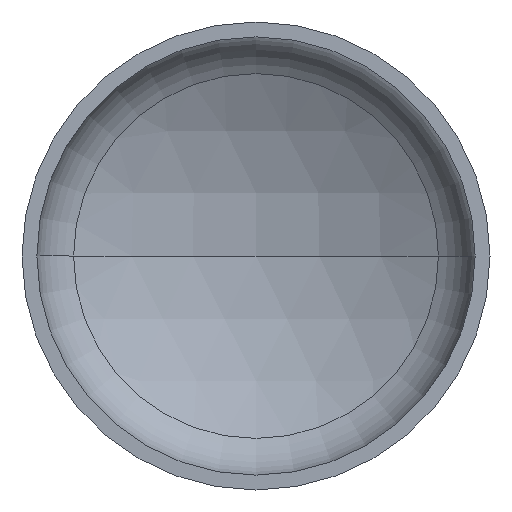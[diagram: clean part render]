
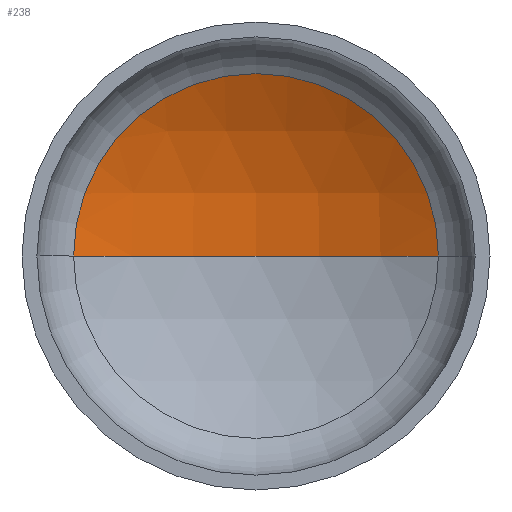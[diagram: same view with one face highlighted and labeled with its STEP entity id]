
A CAD part, front view. The second image highlights one B-rep face of the part: STEP entity #238.
In plain terms, the highlighted spherical face has radius 1360 mm.
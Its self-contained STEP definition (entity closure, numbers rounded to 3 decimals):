
#32 = AXIS2_PLACEMENT_3D ( 'NONE', #247, #222, #339 ) ;
#43 = AXIS2_PLACEMENT_3D ( 'NONE', #393, #251, #411 ) ;
#44 = AXIS2_PLACEMENT_3D ( 'NONE', #284, #283, #269 ) ;
#45 = AXIS2_PLACEMENT_3D ( 'NONE', #398, #403, #273 ) ;
#79 = VERTEX_POINT ( 'NONE', #135 ) ;
#87 = EDGE_LOOP ( 'NONE', ( #163, #119, #111 ) ) ;
#90 = VERTEX_POINT ( 'NONE', #356 ) ;
#105 = VERTEX_POINT ( 'NONE', #384 ) ;
#111 = ORIENTED_EDGE ( 'NONE', *, *, #120, .T. ) ;
#119 = ORIENTED_EDGE ( 'NONE', *, *, #136, .T. ) ;
#120 = EDGE_CURVE ( 'NONE', #90, #105, #333, .T. ) ;
#135 = CARTESIAN_POINT ( 'NONE',  ( 0., 519.425, 0. ) ) ;
#136 = EDGE_CURVE ( 'NONE', #79, #90, #208, .T. ) ;
#147 = EDGE_CURVE ( 'NONE', #79, #105, #326, .T. ) ;
#163 = ORIENTED_EDGE ( 'NONE', *, *, #147, .F. ) ;
#208 = CIRCLE ( 'NONE', #44, 1360. ) ;
#222 = DIRECTION ( 'NONE',  ( 0., 0., -1. ) ) ;
#238 = ADVANCED_FACE ( 'NONE', ( #378 ), #261, .F. ) ;
#247 = CARTESIAN_POINT ( 'NONE',  ( 0., -840.575, 0. ) ) ;
#251 = DIRECTION ( 'NONE',  ( 0., 0., 1. ) ) ;
#261 = SPHERICAL_SURFACE ( 'NONE', #32, 1360. ) ;
#269 = DIRECTION ( 'NONE',  ( -1., 0., 0. ) ) ;
#273 = DIRECTION ( 'NONE',  ( 1., 0., 0. ) ) ;
#283 = DIRECTION ( 'NONE',  ( 0., 0., -1. ) ) ;
#284 = CARTESIAN_POINT ( 'NONE',  ( 0., -840.575, 0. ) ) ;
#326 = CIRCLE ( 'NONE', #43, 1360. ) ;
#333 = CIRCLE ( 'NONE', #45, 662.691 ) ;
#339 = DIRECTION ( 'NONE',  ( -1., 0., 0. ) ) ;
#356 = CARTESIAN_POINT ( 'NONE',  ( 662.691, 347.045, 0. ) ) ;
#378 = FACE_OUTER_BOUND ( 'NONE', #87, .T. ) ;
#384 = CARTESIAN_POINT ( 'NONE',  ( -662.691, 347.045, 0. ) ) ;
#393 = CARTESIAN_POINT ( 'NONE',  ( 0., -840.575, 0. ) ) ;
#398 = CARTESIAN_POINT ( 'NONE',  ( 0., 347.045, 0. ) ) ;
#403 = DIRECTION ( 'NONE',  ( 0., -1., 0. ) ) ;
#411 = DIRECTION ( 'NONE',  ( 1., 0., 0. ) ) ;
